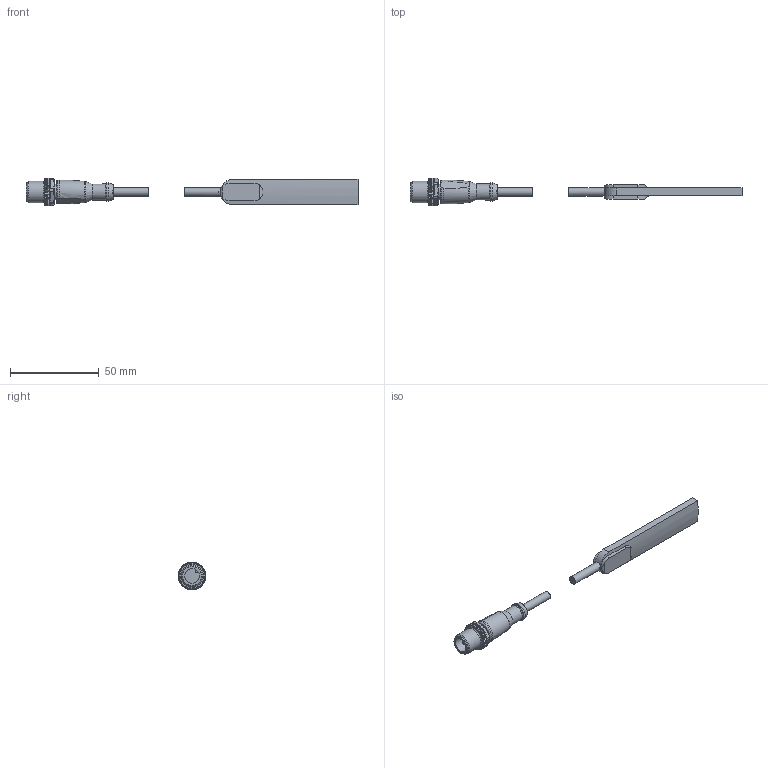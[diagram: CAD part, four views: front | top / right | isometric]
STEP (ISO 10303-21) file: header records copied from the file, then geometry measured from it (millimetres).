
FILE_DESCRIPTION(/* description */ ('STEP AP203'),/* implementation_level */ '2;1');
FILE_NAME(/* name */ 'P_MZ_E200_0130',/* time_stamp */ '2023-05-25T09:48:15+02:00',/* author */ ('License CC BY-ND 4.0'),/* organization */ ('CADENAS'),/* preprocessor_version */ 'ST-DEVELOPER v19.3',/* originating_system */ 'PARTsolutions',/* authorisation */ ' ');
FILE_SCHEMA (('CONFIG_CONTROL_DESIGN'));
Length unit declared in the file: millimetre
Products named in the file (3): P_MZ_E200_0130; P_MZ_E200_0130 _P2; P_MZ_E200_0107_P1
Assembly tree (2 placements, depth 2):
  P_MZ_E200_0130
    P_MZ_E200_0130 _P2
    P_MZ_E200_0107_P1
Bounding box: 186.65 x 15.46 x 15.46 mm (x, y, z)
Volume: 10984.4 mm3; surface area: 6215.9 mm2
Topology: 2 solids, 2 shells, 262 faces, 739 edges, 488 vertices
Faces by surface type: plane 217, cylinder 25, torus 14, cone 6
Full cylindrical faces by diameter (mm): 4.6 x2, 8.9 x1, 9 x1, 10.4 x1, 10.6 x1, 12 x1, 15.46 x1
Entity records: 10480 total; most frequent: CARTESIAN_POINT 2052, ORIENTED_EDGE 1432, DIRECTION 1271, EDGE_CURVE 716, VERTEX_POINT 483, AXIS2_PLACEMENT_3D 456, LINE 359, VECTOR 359
